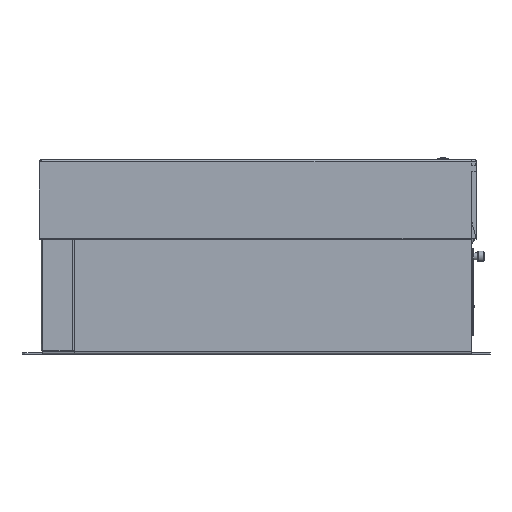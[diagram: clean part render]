
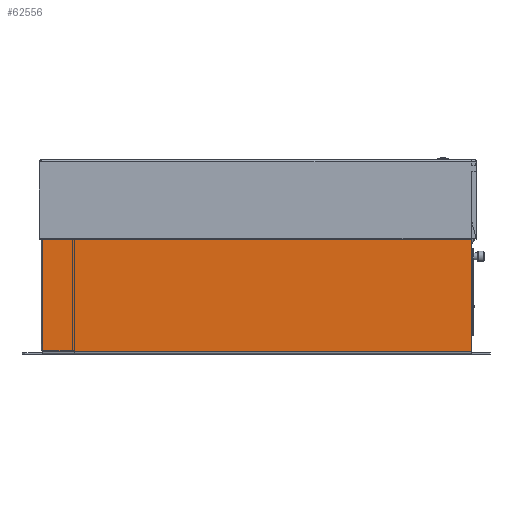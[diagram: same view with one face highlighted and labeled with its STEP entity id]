
A CAD part, left-side view. The second image highlights one B-rep face of the part: STEP entity #62556.
In plain terms, the highlighted planar face has unit normal (-1, 0, 0).
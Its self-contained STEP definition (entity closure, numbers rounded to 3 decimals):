
#5028=FACE_OUTER_BOUND('',#8830,.T.);
#8830=EDGE_LOOP('',(#51008,#51009,#51010,#51011,#51012,#51013,#51014));
#15606=LINE('',#98344,#22698);
#16348=LINE('',#101743,#23440);
#16352=LINE('',#101749,#23444);
#16354=LINE('',#101752,#23446);
#16357=LINE('',#101759,#23449);
#16358=LINE('',#101761,#23450);
#16359=LINE('',#101762,#23451);
#22698=VECTOR('',#79495,10.);
#23440=VECTOR('',#81047,10.);
#23444=VECTOR('',#81053,10.);
#23446=VECTOR('',#81057,10.);
#23449=VECTOR('',#81064,10.);
#23450=VECTOR('',#81065,10.);
#23451=VECTOR('',#81066,10.);
#23993=VERTEX_POINT('',#83454);
#28282=VERTEX_POINT('',#98341);
#28283=VERTEX_POINT('',#98343);
#28886=VERTEX_POINT('',#101740);
#28887=VERTEX_POINT('',#101742);
#28890=VERTEX_POINT('',#101758);
#28891=VERTEX_POINT('',#101760);
#35995=EDGE_CURVE('',#28283,#28282,#15606,.T.);
#37004=EDGE_CURVE('',#28887,#28886,#16348,.T.);
#37008=EDGE_CURVE('',#28886,#28283,#16352,.T.);
#37010=EDGE_CURVE('',#28887,#23993,#16354,.T.);
#37013=EDGE_CURVE('',#28890,#28282,#16357,.T.);
#37014=EDGE_CURVE('',#28891,#28890,#16358,.T.);
#37015=EDGE_CURVE('',#28891,#23993,#16359,.T.);
#51008=ORIENTED_EDGE('',*,*,#37010,.F.);
#51009=ORIENTED_EDGE('',*,*,#37004,.T.);
#51010=ORIENTED_EDGE('',*,*,#37008,.T.);
#51011=ORIENTED_EDGE('',*,*,#35995,.T.);
#51012=ORIENTED_EDGE('',*,*,#37013,.F.);
#51013=ORIENTED_EDGE('',*,*,#37014,.F.);
#51014=ORIENTED_EDGE('',*,*,#37015,.T.);
#55944=PLANE('',#66595);
#62556=ADVANCED_FACE('',(#5028),#55944,.T.);
#66595=AXIS2_PLACEMENT_3D('',#101757,#81062,#81063);
#79495=DIRECTION('',(0.,0.,-1.));
#81047=DIRECTION('',(0.,0.,-1.));
#81053=DIRECTION('',(0.,-1.,0.));
#81057=DIRECTION('',(0.,-1.,0.));
#81062=DIRECTION('center_axis',(-1.,0.,0.));
#81063=DIRECTION('ref_axis',(0.,0.,
1.));
#81064=DIRECTION('',(0.,1.,0.));
#81065=DIRECTION('',(0.,0.,-1.));
#81066=DIRECTION('',(0.,1.,0.));
#83454=CARTESIAN_POINT('',(97.066,394.344,107.98));
#98341=CARTESIAN_POINT('',(97.066,394.344,-8.6));
#98343=CARTESIAN_POINT('',(97.066,394.344,-7.35));
#98344=CARTESIAN_POINT('',(97.066,394.344,105.9));
#101740=CARTESIAN_POINT('',(97.066,394.419,-7.35));
#101742=CARTESIAN_POINT('',(97.066,394.419,107.98));
#101743=CARTESIAN_POINT('',(97.066,394.419,107.98));
#101749=CARTESIAN_POINT('',(97.066,394.419,-7.35));
#101752=CARTESIAN_POINT('',(97.066,391.7,107.98));
#101757=CARTESIAN_POINT('Origin',(97.066,-49.281,50.325));
#101758=CARTESIAN_POINT('',(97.066,-50.531,-8.6));
#101759=CARTESIAN_POINT('',(97.066,53.406,-8.6));
#101760=CARTESIAN_POINT('',(97.066,-50.531,107.98));
#101761=CARTESIAN_POINT('',(97.066,-50.531,50.325));
#101762=CARTESIAN_POINT('',(97.066,173.719,107.98));
